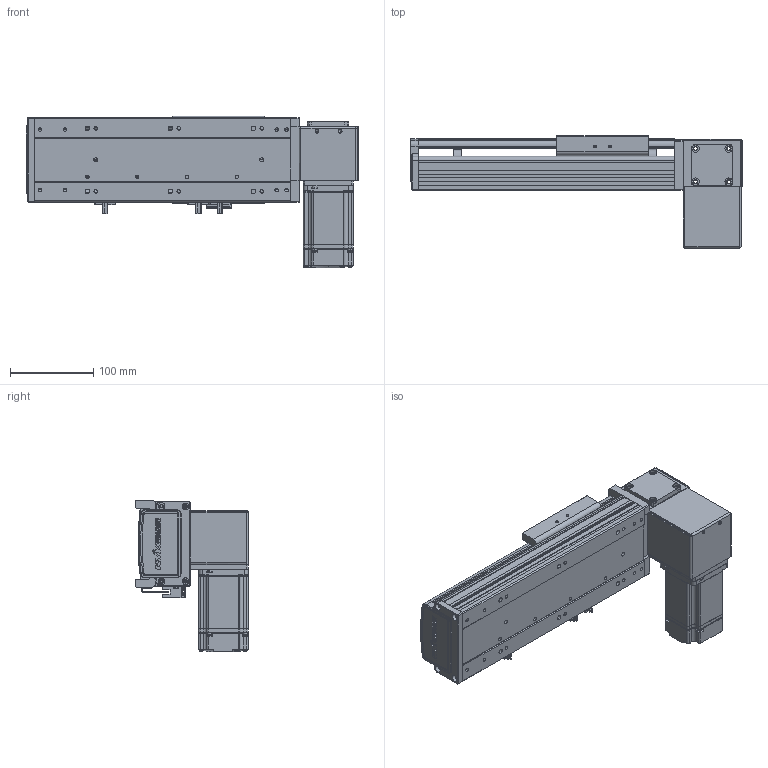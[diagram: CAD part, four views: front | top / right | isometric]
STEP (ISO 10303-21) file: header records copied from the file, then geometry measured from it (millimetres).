
FILE_DESCRIPTION (( 'STEP AP203' ), '1' );
FILE_NAME ('RY100-T-300-DL.SLDASM_100.step', '2024-04-24T01:10:22', ( '盈信电脑' ), ( '东莞市道滘镇水果街19号' ), 'SwSTEP 2.0', 'SolidWorks 2016', '' );
FILE_SCHEMA (( 'CONFIG_CONTROL_DESIGN' ));
Length unit declared in the file: millimetre
Products named in the file (16): 覜茼ん672; RY100-T翋肮祭謫裔啣; RY100-T翋肮祭謫粣; RY100-T肮祭謫翋盓傅釱; RY100-T粣創揤踡裔; 滅袉蝶18-10; RY100-T肮祭謫臏賑輸; RY80-T肮祭謫狟殏俋欶; 1; RY100綴裔啣; RY100俋离覜茼え; RY100-T-300-RK倰第菁釱_100; RY100-T-300-DL.SLDASM_100; RY100-T左右折电机安装板; RY100-T-300-RK倰第奻裔_100; RY100-T翋肮祭謫裔啣2
Assembly tree (18 placements, depth 2):
  RY100-T-300-DL.SLDASM_100
    RY100-T-300-RK倰第菁釱_100
    RY100-T-300-RK倰第奻裔_100
    RY100-T肮祭謫臏賑輸
    RY100綴裔啣
    覜茼ん672  x3
    RY100俋离覜茼え
    RY100-T翋肮祭謫粣
    RY100-T肮祭謫翋盓傅釱
    滅袉蝶18-10  x2
    RY100-T翋肮祭謫裔啣
    1
    RY100-T左右折电机安装板
    RY100-T粣創揤踡裔
    RY100-T翋肮祭謫裔啣2
    RY80-T肮祭謫狟殏俋欶
Bounding box: 400 x 135.5 x 182.5 mm (x, y, z)
Volume: 1207565.1 mm3; surface area: 445458 mm2
Topology: 18 solids, 18 shells, 2109 faces, 5793 edges, 3755 vertices
Faces by surface type: plane 1195, cylinder 705, cone 131, bspline 78
Entity records: 66742 total; most frequent: CARTESIAN_POINT 15736, ORIENTED_EDGE 10418, DIRECTION 9969, EDGE_CURVE 5209, LINE 3475, VECTOR 3475, VERTEX_POINT 3423, AXIS2_PLACEMENT_3D 3247
